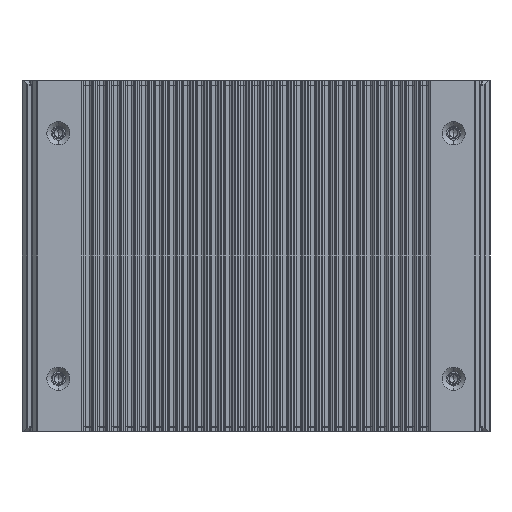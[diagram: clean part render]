
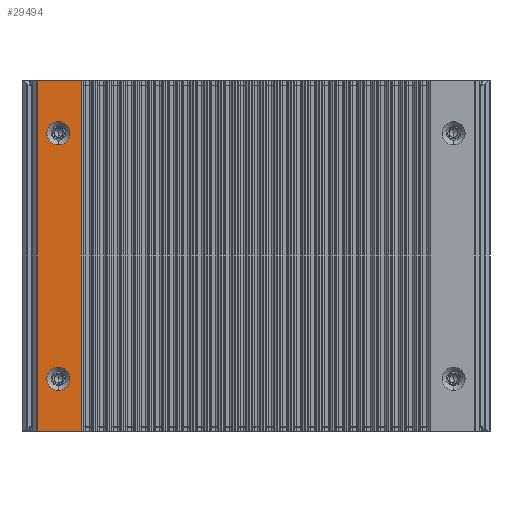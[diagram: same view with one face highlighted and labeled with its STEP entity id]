
A CAD part, left-side view. The second image highlights one B-rep face of the part: STEP entity #29494.
In plain terms, the highlighted planar face has unit normal (-1, 0, 0).
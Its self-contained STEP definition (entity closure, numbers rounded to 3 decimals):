
#24044=DIRECTION('',(0.,0.,-1.));
#24045=VECTOR('',#24044,100.);
#24046=CARTESIAN_POINT('',(-93.5,137.134,0.));
#24047=LINE('',#24046,#24045);
#24051=DIRECTION('',(0.,-1.,0.));
#24052=VECTOR('',#24051,12.36);
#24053=CARTESIAN_POINT('',(-93.5,137.134,0.));
#24054=LINE('',#24053,#24052);
#24058=DIRECTION('',(0.,0.,1.));
#24059=VECTOR('',#24058,100.);
#24060=CARTESIAN_POINT('',(-93.5,124.774,-100.));
#24061=LINE('',#24060,#24059);
#24065=CARTESIAN_POINT('',(-93.5,131.3,-15.));
#24066=DIRECTION('',(1.,0.,0.));
#24067=DIRECTION('',(0.,0.,1.));
#24068=AXIS2_PLACEMENT_3D('',#24065,#24066,#24067);
#24073=CARTESIAN_POINT('',(-93.5,131.3,-15.));
#24074=DIRECTION('',(1.,0.,0.));
#24075=DIRECTION('',(0.,0.,-1.));
#24076=AXIS2_PLACEMENT_3D('',#24073,#24074,#24075);
#24081=CARTESIAN_POINT('',(-93.5,131.3,-85.));
#24082=DIRECTION('',(1.,0.,0.));
#24083=DIRECTION('',(0.,0.,1.));
#24084=AXIS2_PLACEMENT_3D('',#24081,#24082,#24083);
#24089=CARTESIAN_POINT('',(-93.5,131.3,-85.));
#24090=DIRECTION('',(1.,0.,0.));
#24091=DIRECTION('',(0.,0.,-1.));
#24092=AXIS2_PLACEMENT_3D('',#24089,#24090,#24091);
#24134=DIRECTION('',(0.,-1.,0.));
#24135=VECTOR('',#24134,12.36);
#24136=CARTESIAN_POINT('',(-93.5,137.134,-100.));
#24137=LINE('',#24136,#24135);
#28621=CARTESIAN_POINT('',(-93.5,124.774,0.));
#28623=VERTEX_POINT('',#28621);
#28627=CARTESIAN_POINT('',(-93.5,124.774,-100.));
#28628=VERTEX_POINT('',#28627);
#28669=CARTESIAN_POINT('',(-93.5,137.134,-100.));
#28671=VERTEX_POINT('',#28669);
#28675=CARTESIAN_POINT('',(-93.5,137.134,0.));
#28676=VERTEX_POINT('',#28675);
#28709=CARTESIAN_POINT('',(-93.5,131.3,-11.7));
#28710=CARTESIAN_POINT('',(-93.5,131.3,-18.3));
#28711=VERTEX_POINT('',#28709);
#28712=VERTEX_POINT('',#28710);
#28717=CARTESIAN_POINT('',(-93.5,131.3,-81.7));
#28718=CARTESIAN_POINT('',(-93.5,131.3,-88.3));
#28719=VERTEX_POINT('',#28717);
#28720=VERTEX_POINT('',#28718);
#29469=CARTESIAN_POINT('',(-93.5,138.8,0.));
#29470=DIRECTION('',(-1.,0.,0.));
#29471=DIRECTION('',(0.,-1.,0.));
#29472=AXIS2_PLACEMENT_3D('',#29469,#29470,#29471);
#29473=PLANE('',#29472);
#29475=ORIENTED_EDGE('',*,*,#29474,.F.);
#29476=ORIENTED_EDGE('',*,*,#29212,.T.);
#29478=ORIENTED_EDGE('',*,*,#29477,.F.);
#29480=ORIENTED_EDGE('',*,*,#29479,.F.);
#29481=EDGE_LOOP('',(#29475,#29476,#29478,#29480));
#29482=FACE_OUTER_BOUND('',#29481,.F.);
#29484=ORIENTED_EDGE('',*,*,#29483,.F.);
#29485=ORIENTED_EDGE('',*,*,#29459,.F.);
#29486=EDGE_LOOP('',(#29484,#29485));
#29487=FACE_BOUND('',#29486,.F.);
#29489=ORIENTED_EDGE('',*,*,#29488,.F.);
#29491=ORIENTED_EDGE('',*,*,#29490,.F.);
#29492=EDGE_LOOP('',(#29489,#29491));
#29493=FACE_BOUND('',#29492,.F.);
#24069=CIRCLE('',#24068,3.3);
#24077=CIRCLE('',#24076,3.3);
#24085=CIRCLE('',#24084,3.3);
#24093=CIRCLE('',#24092,3.3);
#29212=EDGE_CURVE('',#28676,#28623,#24054,.T.);
#29459=EDGE_CURVE('',#28712,#28711,#24077,.T.);
#29474=EDGE_CURVE('',#28676,#28671,#24047,.T.);
#29477=EDGE_CURVE('',#28628,#28623,#24061,.T.);
#29479=EDGE_CURVE('',#28671,#28628,#24137,.T.);
#29483=EDGE_CURVE('',#28711,#28712,#24069,.T.);
#29488=EDGE_CURVE('',#28719,#28720,#24085,.T.);
#29490=EDGE_CURVE('',#28720,#28719,#24093,.T.);
#29494=ADVANCED_FACE('',(#29482,#29487,#29493),#29473,.T.);
